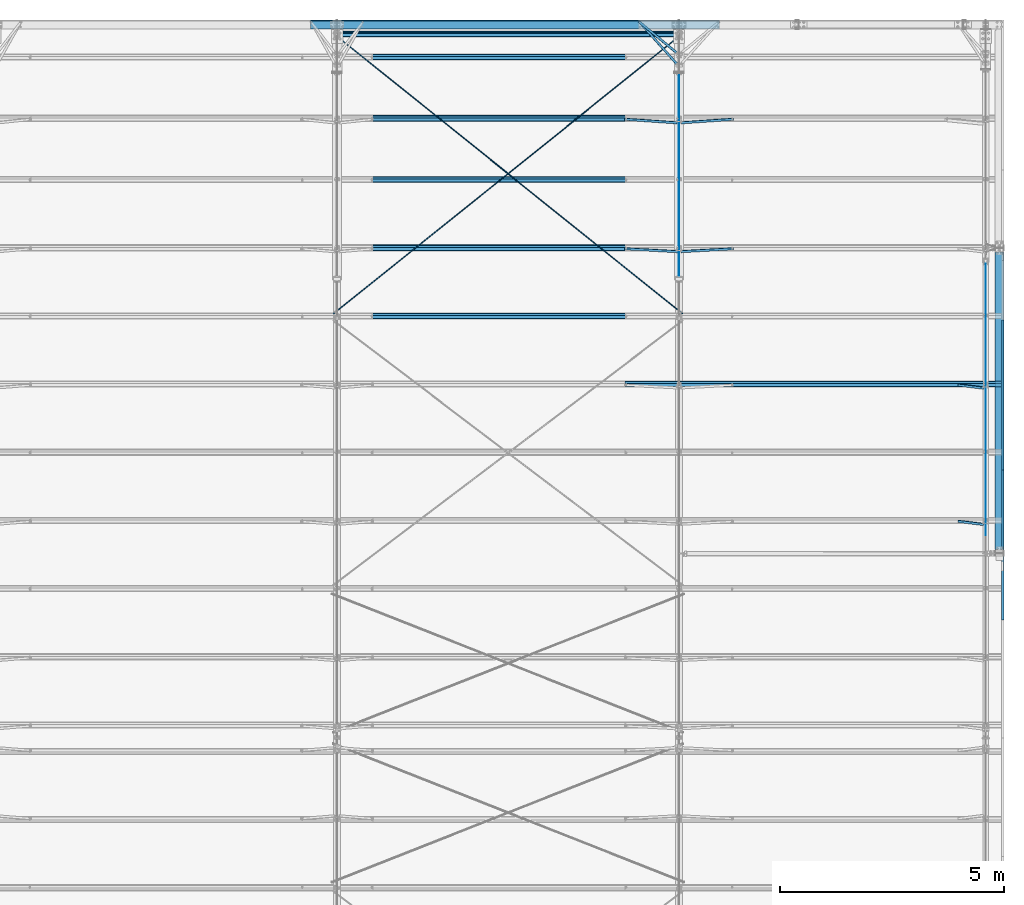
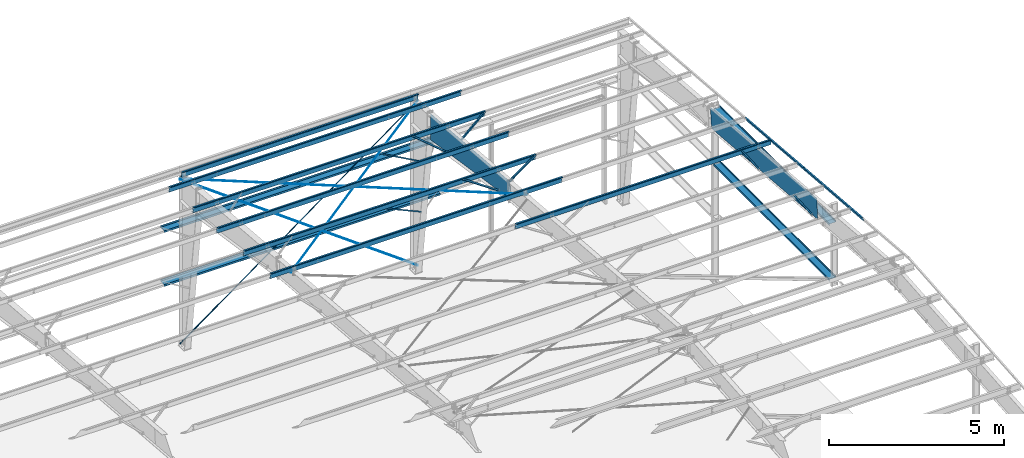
# One storey, part 20 of 185: 19 beams, 8 members, 27 elements without a shape of their own.
"""IFC2X3 building model written with IfcOpenShell, lengths in millimetres."""

from ifc_helpers import new_model, si_unit, frame, origin_with_axes, origin_2d_with_axis, place, context, subcontext, project, spatial, polyline, rectangle, circle, outline, extrude, clip, halfspace, material, type_object, element, aggregate, save


model = new_model("IFC2X3")

# Units and contexts
model_context = context("Model", 3, precision=1e-05, world=origin_with_axes())
body_context = subcontext(model_context, "Body", "Model", "MODEL_VIEW")
ifc_project = project(units=[si_unit("LENGTHUNIT", "METRE", prefix="MILLI"), si_unit("AREAUNIT", "SQUARE_METRE"), si_unit("VOLUMEUNIT", "CUBIC_METRE"), si_unit("MASSUNIT", "GRAM", prefix="KILO"), si_unit("TIMEUNIT", "SECOND"), si_unit("PLANEANGLEUNIT", "RADIAN"), si_unit("SOLIDANGLEUNIT", "STERADIAN"), si_unit("THERMODYNAMICTEMPERATUREUNIT", "DEGREE_CELSIUS"), si_unit("LUMINOUSINTENSITYUNIT", "LUMEN")], contexts=[model_context])

# Site, building, storey
site_placement = place(None, origin_with_axes())
site = spatial("IfcSite", under=ifc_project, at=site_placement, Name="Undefined", CompositionType="ELEMENT")
building_placement = place(site_placement, origin_with_axes())
building = spatial("IfcBuilding", under=site, at=building_placement, Name="Undefined", CompositionType="ELEMENT")
storey_placement = place(building_placement, origin_with_axes())
storey = spatial("IfcBuildingStorey", under=building, at=storey_placement, Name="Undefined", CompositionType="ELEMENT", Elevation=0.0)

# Assembly, beam
assembly_1_placement = place(storey_placement, origin_with_axes())
assembly_1 = element("IfcElementAssembly", 1, at=assembly_1_placement, inside=storey, Name="Steel Assembly", AssemblyPlace="NOTDEFINED", PredefinedType="RIGID_FRAME")
ifc_material = material(Name="STEEL/55")
beam_type_1 = type_object("IfcBeamType", Name="8Z15", PredefinedType="NOTDEFINED")
beam_1_placement = place(assembly_1_placement, frame((37719.0, 31180.9195102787, 6062.63787351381), z_axis=(0.0, -0.0830454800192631, -0.996545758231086), x_axis=(-1.0, 0.0, 0.0)))
beam_1 = element("IfcBeam", 2, at=beam_1_placement, type_object=beam_type_1, material=ifc_material, Name="Purlin", ObjectType="8Z15", context=body_context, shape_type="Clipping", body=[
    clip(clip(extrude(outline(polyline([(-75.75, 87.0100021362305), (-63.5, 101.599998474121), (1.5900000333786, 101.599998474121), (1.5900000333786, -98.4199981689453), (62.0200004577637, -98.4199981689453), (73.3099975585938, -84.9700012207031), (75.7399978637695, -87.0100021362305), (63.5, -101.599998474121), (-1.5900000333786, -101.599998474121), (-1.5900000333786, 98.4199981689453), (-62.0200004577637, 98.4199981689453), (-73.3099975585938, 84.9700012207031), (-75.75, 87.0100021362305)])), frame((8420.1, 0.0, 0.0), z_axis=(-1.0, 0.0, 0.0), x_axis=(0.0, -1.0, 0.0)), (0.0, 0.0, 1.0), 9626.6), halfspace(frame((8420.1, 2.91402102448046e-09, -101.600000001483), z_axis=(-1.0, 0.0, 0.0), x_axis=(0.0, 0.0, 1.0)), True)), halfspace(frame((-1206.5, 2.91402102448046e-09, -101.600000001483), z_axis=(-1.0, 0.0, 0.0), x_axis=(0.0, 0.0, 1.0)), False)),
])
aggregate(assembly_1, [beam_1])

assembly_2_placement = place(storey_placement, origin_with_axes())
assembly_2 = element("IfcElementAssembly", 3, at=assembly_2_placement, inside=storey, Name="Steel Assembly", AssemblyPlace="NOTDEFINED", PredefinedType="RIGID_FRAME")
beam_2_placement = place(assembly_2_placement, frame((37719.0, 29814.0573482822, 6176.54305391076), z_axis=(0.0, -0.0830454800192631, -0.996545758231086), x_axis=(-1.0, 0.0, 0.0)))
beam_2 = element("IfcBeam", 4, at=beam_2_placement, type_object=beam_type_1, material=ifc_material, Name="Purlin", ObjectType="8Z15", context=body_context, shape_type="Clipping", body=[
    clip(clip(extrude(outline(polyline([(-75.75, 87.0100021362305), (-63.5, 101.599998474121), (1.5900000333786, 101.599998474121), (1.5900000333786, -98.4199981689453), (62.0200004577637, -98.4199981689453), (73.3099975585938, -84.9700012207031), (75.7399978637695, -87.0100021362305), (63.5, -101.599998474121), (-1.5900000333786, -101.599998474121), (-1.5900000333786, 98.4199981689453), (-62.0200004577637, 98.4199981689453), (-73.3099975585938, 84.9700012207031), (-75.75, 87.0100021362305)])), frame((8420.1, 0.0, 0.0), z_axis=(-1.0, 0.0, 0.0), x_axis=(0.0, -1.0, 0.0)), (0.0, 0.0, 1.0), 9626.6), halfspace(frame((8420.1, 2.91402102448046e-09, -101.600000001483), z_axis=(-1.0, 0.0, 0.0), x_axis=(0.0, 0.0, 1.0)), True)), halfspace(frame((-1206.5, 2.91402102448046e-09, -101.600000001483), z_axis=(-1.0, 0.0, 0.0), x_axis=(0.0, 0.0, 1.0)), False)),
])
aggregate(assembly_2, [beam_2])

assembly_3_placement = place(storey_placement, origin_with_axes())
assembly_3 = element("IfcElementAssembly", 5, at=assembly_3_placement, inside=storey, Name="Steel Assembly", AssemblyPlace="NOTDEFINED", PredefinedType="RIGID_FRAME")
beam_3_placement = place(assembly_3_placement, frame((37719.0, 28447.1951862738, 6290.4482343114), z_axis=(0.0, -0.0830454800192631, -0.996545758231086), x_axis=(-1.0, 0.0, 0.0)))
beam_3 = element("IfcBeam", 6, at=beam_3_placement, type_object=beam_type_1, material=ifc_material, Name="Purlin", ObjectType="8Z15", context=body_context, shape_type="Clipping", body=[
    clip(clip(extrude(outline(polyline([(-75.75, 87.0100021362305), (-63.5, 101.599998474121), (1.5900000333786, 101.599998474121), (1.5900000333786, -98.4199981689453), (62.0200004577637, -98.4199981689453), (73.3099975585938, -84.9700012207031), (75.7399978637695, -87.0100021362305), (63.5, -101.599998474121), (-1.5900000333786, -101.599998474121), (-1.5900000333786, 98.4199981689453), (-62.0200004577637, 98.4199981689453), (-73.3099975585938, 84.9700012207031), (-75.75, 87.0100021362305)])), frame((8420.1, 0.0, 0.0), z_axis=(-1.0, 0.0, 0.0), x_axis=(0.0, -1.0, 0.0)), (0.0, 0.0, 1.0), 9626.6), halfspace(frame((8420.1, 2.91402102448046e-09, -101.600000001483), z_axis=(-1.0, 0.0, 0.0), x_axis=(0.0, 0.0, 1.0)), True)), halfspace(frame((-1206.5, 2.91402102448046e-09, -101.600000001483), z_axis=(-1.0, 0.0, 0.0), x_axis=(0.0, 0.0, 1.0)), False)),
])
aggregate(assembly_3, [beam_3])

assembly_4_placement = place(storey_placement, origin_with_axes())
assembly_4 = element("IfcElementAssembly", 7, at=assembly_4_placement, inside=storey, Name="Steel Assembly", AssemblyPlace="NOTDEFINED", PredefinedType="RIGID_FRAME")
beam_4_placement = place(assembly_4_placement, frame((37719.0, 26928.4594507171, 6417.00954586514), z_axis=(0.0, -0.0830454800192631, -0.996545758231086), x_axis=(-1.0, 0.0, 0.0)))
beam_4 = element("IfcBeam", 8, at=beam_4_placement, type_object=beam_type_1, material=ifc_material, Name="Purlin", ObjectType="8Z15", context=body_context, shape_type="Clipping", body=[
    clip(clip(extrude(outline(polyline([(-75.75, 87.0100021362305), (-63.5, 101.599998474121), (1.5900000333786, 101.599998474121), (1.5900000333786, -98.4199981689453), (62.0200004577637, -98.4199981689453), (73.3099975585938, -84.9700012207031), (75.7399978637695, -87.0100021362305), (63.5, -101.599998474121), (-1.5900000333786, -101.599998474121), (-1.5900000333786, 98.4199981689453), (-62.0200004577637, 98.4199981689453), (-73.3099975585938, 84.9700012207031), (-75.75, 87.0100021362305)])), frame((8420.1, 0.0, 0.0), z_axis=(-1.0, 0.0, 0.0), x_axis=(0.0, -1.0, 0.0)), (0.0, 0.0, 1.0), 9626.6), halfspace(frame((8420.1, 2.91402102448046e-09, -101.600000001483), z_axis=(-1.0, 0.0, 0.0), x_axis=(0.0, 0.0, 1.0)), True)), halfspace(frame((-1206.5, 2.91402102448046e-09, -101.600000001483), z_axis=(-1.0, 0.0, 0.0), x_axis=(0.0, 0.0, 1.0)), False)),
])
aggregate(assembly_4, [beam_4])

assembly_5_placement = place(storey_placement, origin_with_axes())
assembly_5 = element("IfcElementAssembly", 9, at=assembly_5_placement, inside=storey, Name="Steel Assembly", AssemblyPlace="NOTDEFINED", PredefinedType="RIGID_FRAME")
beam_5_placement = place(assembly_5_placement, frame((37719.0, 25409.7237151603, 6543.57085741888), z_axis=(0.0, -0.0830454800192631, -0.996545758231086), x_axis=(-1.0, 0.0, 0.0)))
beam_5 = element("IfcBeam", 10, at=beam_5_placement, type_object=beam_type_1, material=ifc_material, Name="Purlin", ObjectType="8Z15", context=body_context, shape_type="Clipping", body=[
    clip(clip(extrude(outline(polyline([(-75.75, 87.0100021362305), (-63.5, 101.599998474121), (1.5900000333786, 101.599998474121), (1.5900000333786, -98.4199981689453), (62.0200004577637, -98.4199981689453), (73.3099975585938, -84.9700012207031), (75.7399978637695, -87.0100021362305), (63.5, -101.599998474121), (-1.5900000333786, -101.599998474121), (-1.5900000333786, 98.4199981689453), (-62.0200004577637, 98.4199981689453), (-73.3099975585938, 84.9700012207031), (-75.75, 87.0100021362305)])), frame((8420.1, 0.0, 0.0), z_axis=(-1.0, 0.0, 0.0), x_axis=(0.0, -1.0, 0.0)), (0.0, 0.0, 1.0), 9626.6), halfspace(frame((8420.1, 2.91402102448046e-09, -101.600000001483), z_axis=(-1.0, 0.0, 0.0), x_axis=(0.0, 0.0, 1.0)), True)), halfspace(frame((-1206.5, 2.91402102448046e-09, -101.600000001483), z_axis=(-1.0, 0.0, 0.0), x_axis=(0.0, 0.0, 1.0)), False)),
])
aggregate(assembly_5, [beam_5])

assembly_6_placement = place(storey_placement, origin_with_axes())
assembly_6 = element("IfcElementAssembly", 11, at=assembly_6_placement, inside=storey, Name="Steel Assembly", AssemblyPlace="NOTDEFINED", PredefinedType="RIGID_FRAME")
beam_6_placement = place(assembly_6_placement, frame((37719.0, 31902.4, 4165.6), z_axis=(0.0, -1.0, 0.0), x_axis=(-1.0, 0.0, 0.0)))
beam_6 = element("IfcBeam", 12, at=beam_6_placement, type_object=beam_type_1, material=ifc_material, Name="Girt", ObjectType="8Z15", context=body_context, shape_type="Clipping", body=[
    clip(clip(extrude(outline(polyline([(-75.75, 87.0100021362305), (-63.5, 101.599998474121), (1.5900000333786, 101.599998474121), (1.5900000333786, -98.4199981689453), (62.0200004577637, -98.4199981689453), (73.3099975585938, -84.9700012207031), (75.7399978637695, -87.0100021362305), (63.5, -101.599998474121), (-1.5900000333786, -101.599998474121), (-1.5900000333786, 98.4199981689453), (-62.0200004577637, 98.4199981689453), (-73.3099975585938, 84.9700012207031), (-75.75, 87.0100021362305)])), frame((8216.9, 0.0, 0.0), z_axis=(-1.0, 0.0, 0.0), x_axis=(0.0, -1.0, 0.0)), (0.0, 0.0, 1.0), 9118.6), halfspace(frame((8216.9, 0.0, -101.6), z_axis=(1.0, 0.0, 0.0), x_axis=(0.0, 1.0, 0.0)), False)), halfspace(frame((-901.7, 0.0, -101.599999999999), z_axis=(1.0, 0.0, 0.0), x_axis=(0.0, 1.0, 0.0)), True)),
])
aggregate(assembly_6, [beam_6])

assembly_7_placement = place(storey_placement, origin_with_axes())
assembly_7 = element("IfcElementAssembly", 13, at=assembly_7_placement, inside=storey, Name="Steel Assembly", AssemblyPlace="NOTDEFINED", PredefinedType="RIGID_FRAME")
beam_type_2 = type_object("IfcBeamType", Name="FB-", PredefinedType="NOTDEFINED")
beam_7_placement = place(assembly_7_placement, frame((37675.6103838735, 31233.634497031, 2286.00000000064), z_axis=(0.0, 0.0, 1.0), x_axis=(-0.771602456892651, 0.636105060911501, 0.0)))
beam_7 = element("IfcBeam", 14, at=beam_7_placement, type_object=beam_type_2, material=ifc_material, Name="2X2 FLANGE BRACE X 48", ObjectType="FB-", context=body_context, shape_type="SweptSolid", body=[
    extrude(outline(polyline([(1.5900000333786, 1.59000003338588), (50.7999992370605, 1.59000003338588), (50.7999992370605, 7.27595761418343e-12), (0.0, 0.0), (0.0, 50.7999992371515), (1.5900000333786, 50.7999992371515), (1.5900000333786, 1.59000003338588)])), frame((1125.79495665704, 0.0, -1.24988348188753e-13), z_axis=(-1.0, 0.0, 0.0), x_axis=(0.0, -1.0, 0.0)), (0.0, 0.0, 1.0), 1125.8),
])
aggregate(assembly_7, [beam_7])

assembly_8_placement = place(storey_placement, origin_with_axes())
assembly_8 = element("IfcElementAssembly", 15, at=assembly_8_placement, inside=storey, Name="Steel Assembly", AssemblyPlace="NOTDEFINED", PredefinedType="RIGID_FRAME")
beam_8_placement = place(assembly_8_placement, frame((37670.0850701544, 30985.5315740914, 4165.59999999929), z_axis=(0.0, 0.0, 1.0), x_axis=(-0.664898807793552, 0.746933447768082, 0.0)))
beam_8 = element("IfcBeam", 16, at=beam_8_placement, type_object=beam_type_2, material=ifc_material, Name="2X2 FLANGE BRACE X 60", ObjectType="FB-", context=body_context, shape_type="SweptSolid", body=[
    extrude(outline(polyline([(1.5900000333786, 1.59000003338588), (50.7999992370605, 1.59000003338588), (50.7999992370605, 7.27595761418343e-12), (0.0, 0.0), (0.0, 50.7999992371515), (1.5900000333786, 50.7999992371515), (1.5900000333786, 1.59000003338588)])), frame((1298.31126038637, 0.0, 0.0), z_axis=(-1.0, 0.0, 0.0), x_axis=(0.0, -1.0, 0.0)), (0.0, 0.0, 1.0), 1298.3),
])
aggregate(assembly_8, [beam_8])

assembly_9_placement = place(storey_placement, origin_with_axes())
assembly_9 = element("IfcElementAssembly", 17, at=assembly_9_placement, inside=storey, Name="Steel Assembly", AssemblyPlace="NOTDEFINED", PredefinedType="RIGID_FRAME")
beam_type_3 = type_object("IfcBeamType", Name="8Z16", PredefinedType="NOTDEFINED")
beam_9_placement = place(assembly_9_placement, frame((44856.4, 19202.400390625, 6096.0), z_axis=(-1.0, 0.0, 0.0), x_axis=(0.0, 1.0, 0.0)))
beam_9 = element("IfcBeam", 18, at=beam_9_placement, type_object=beam_type_3, material=ifc_material, Name="Girt", ObjectType="8Z16", context=body_context, shape_type="Clipping", body=[
    clip(clip(extrude(outline(polyline([(73.3099975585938, -84.9700012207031), (75.7399978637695, -87.0100021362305), (63.5, -101.599998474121), (-1.5900000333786, -101.599998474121), (-1.5900000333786, 98.4199981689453), (-62.0200004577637, 98.4199981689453), (-73.3099975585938, 84.9700012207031), (-75.75, 87.0100021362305), (-63.5, 101.599998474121), (1.5900000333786, 101.599998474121), (1.5900000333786, -98.4199981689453), (62.0200004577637, -98.4199981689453), (73.3099975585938, -84.9700012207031)])), frame((7721.598828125, 0.0, 0.0), z_axis=(-1.0, 0.0, 0.0), x_axis=(0.0, -1.0, 0.0)), (0.0, 0.0, 1.0), 7721.6), halfspace(frame((7632.69960937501, -74.5286799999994, -101.599999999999), z_axis=(1.0, 0.0, 0.0), x_axis=(0.0, 0.0, 1.0)), False)), halfspace(frame((1003.29960937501, 74.5286799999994, -101.599999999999), z_axis=(-1.0, 0.0, 0.0), x_axis=(0.0, 0.0, 1.0)), False)),
])
aggregate(assembly_9, [beam_9])

assembly_10_placement = place(storey_placement, origin_with_axes())
assembly_10 = element("IfcElementAssembly", 19, at=assembly_10_placement, inside=storey, Name="Steel Assembly", AssemblyPlace="NOTDEFINED", PredefinedType="RIGID_FRAME")
beam_10_placement = place(assembly_10_placement, frame((37719.0, 31902.4, 2286.0), z_axis=(0.0, -1.0, 0.0), x_axis=(-1.0, 0.0, 0.0)))
beam_10 = element("IfcBeam", 20, at=beam_10_placement, type_object=beam_type_3, material=ifc_material, Name="Girt", ObjectType="8Z16", context=body_context, shape_type="Clipping", body=[
    clip(clip(extrude(outline(polyline([(73.3099975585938, -84.9700012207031), (75.7399978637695, -87.0100021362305), (63.5, -101.599998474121), (-1.5900000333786, -101.599998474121), (-1.5900000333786, 98.4199981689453), (-62.0200004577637, 98.4199981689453), (-73.3099975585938, 84.9700012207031), (-75.75, 87.0100021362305), (-63.5, 101.599998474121), (1.5900000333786, 101.599998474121), (1.5900000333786, -98.4199981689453), (62.0200004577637, -98.4199981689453), (73.3099975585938, -84.9700012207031)])), frame((8216.9, 0.0, 0.0), z_axis=(-1.0, 0.0, 0.0), x_axis=(0.0, -1.0, 0.0)), (0.0, 0.0, 1.0), 9118.6), halfspace(frame((8216.9, 0.0, -101.6), z_axis=(1.0, 0.0, 0.0), x_axis=(0.0, 1.0, 0.0)), False)), halfspace(frame((-901.7, 0.0, -101.599999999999), z_axis=(1.0, 0.0, 0.0), x_axis=(0.0, 1.0, 0.0)), True)),
])
aggregate(assembly_10, [beam_10])

# Assembly, member
assembly_11_placement = place(storey_placement, origin_with_axes())
assembly_11 = element("IfcElementAssembly", 21, at=assembly_11_placement, inside=storey, Name="Steel Assembly", AssemblyPlace="NOTDEFINED", PredefinedType="RIGID_FRAME")
member_type_1 = type_object("IfcMemberType", Name="FB-", PredefinedType="NOTDEFINED")
member_1_placement = place(assembly_11_placement, frame((44498.3456661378, 20787.5752313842, 6131.95946565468), z_axis=(0.0, -0.996545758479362, 0.0830454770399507), x_axis=(-0.553483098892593, 0.0691652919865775, 0.82998350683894)))
member_1 = element("IfcMember", 22, at=member_1_placement, type_object=member_type_1, material=ifc_material, Name="2X2 FLANGE BRACE X 48", ObjectType="FB-", context=body_context, shape_type="SweptSolid", body=[
    extrude(outline(polyline([(1.5900000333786, 1.59000003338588), (50.7999992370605, 1.59000003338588), (50.7999992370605, 7.27595761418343e-12), (0.0, 0.0), (0.0, 50.7999992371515), (1.5900000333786, 50.7999992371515), (1.5900000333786, 1.59000003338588)])), frame((1022.90167929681, -5.11529800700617e-13, 1.83318501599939e-12), z_axis=(-1.0, 0.0, 0.0), x_axis=(0.0, -1.0, 0.0)), (0.0, 0.0, 1.0), 1022.9),
])
aggregate(assembly_11, [member_1])

assembly_12_placement = place(storey_placement, origin_with_axes())
assembly_12 = element("IfcElementAssembly", 23, at=assembly_12_placement, inside=storey, Name="Steel Assembly", AssemblyPlace="NOTDEFINED", PredefinedType="RIGID_FRAME")
member_2_placement = place(assembly_12_placement, frame((44498.3456661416, 23825.0467025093, 5878.83684303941), z_axis=(0.0, -0.996545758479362, 0.0830454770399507), x_axis=(-0.553483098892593, 0.0691652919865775, 0.82998350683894)))
member_2 = element("IfcMember", 24, at=member_2_placement, type_object=member_type_1, material=ifc_material, Name="2X2 FLANGE BRACE X 48", ObjectType="FB-", context=body_context, shape_type="SweptSolid", body=[
    extrude(outline(polyline([(1.5900000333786, 1.59000003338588), (50.7999992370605, 1.59000003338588), (50.7999992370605, 7.27595761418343e-12), (0.0, 0.0), (0.0, 50.7999992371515), (1.5900000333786, 50.7999992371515), (1.5900000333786, 1.59000003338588)])), frame((1022.90167929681, -5.11529800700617e-13, 1.83318501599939e-12), z_axis=(-1.0, 0.0, 0.0), x_axis=(0.0, -1.0, 0.0)), (0.0, 0.0, 1.0), 1022.9),
])
aggregate(assembly_12, [member_2])

assembly_13_placement = place(storey_placement, origin_with_axes())
assembly_13 = element("IfcElementAssembly", 25, at=assembly_13_placement, inside=storey, Name="Steel Assembly", AssemblyPlace="NOTDEFINED", PredefinedType="RIGID_FRAME")
member_3_placement = place(assembly_13_placement, frame((37758.7112148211, 26867.2467094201, 5682.45664960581), z_axis=(-0.552924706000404, 0.0691960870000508, 0.830353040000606), x_axis=(0.833231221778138, 0.0459178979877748, 0.551014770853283)))
member_3 = element("IfcMember", 26, at=member_3_placement, type_object=member_type_1, material=ifc_material, Name="2X2 FLANGE BRACE X 48", ObjectType="FB-", context=body_context, shape_type="SweptSolid", body=[
    extrude(outline(polyline([(1.5900000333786, 1.59000003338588), (50.7999992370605, 1.59000003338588), (50.7999992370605, 7.27595761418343e-12), (0.0, 0.0), (0.0, 50.7999992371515), (1.5900000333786, 50.7999992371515), (1.5900000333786, 1.59000003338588)])), frame((1412.08960292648, 3.63797880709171e-12, -9.09494701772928e-13), z_axis=(-1.0, 0.0, 0.0), x_axis=(0.0, -1.0, 0.0)), (0.0, 0.0, 1.0), 1412.1),
])
aggregate(assembly_13, [member_3])

assembly_14_placement = place(storey_placement, origin_with_axes())
assembly_14 = element("IfcElementAssembly", 27, at=assembly_14_placement, inside=storey, Name="Steel Assembly", AssemblyPlace="NOTDEFINED", PredefinedType="RIGID_FRAME")
member_4_placement = place(assembly_14_placement, frame((37679.2887851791, 26867.2467094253, 5682.45664960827), z_axis=(0.0, -0.996545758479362, 0.0830454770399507), x_axis=(-0.833231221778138, 0.0459178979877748, 0.551014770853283)))
member_4 = element("IfcMember", 28, at=member_4_placement, type_object=member_type_1, material=ifc_material, Name="2X2 FLANGE BRACE X 48", ObjectType="FB-", context=body_context, shape_type="SweptSolid", body=[
    extrude(outline(polyline([(1.5900000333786, 1.59000003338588), (50.7999992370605, 1.59000003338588), (50.7999992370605, 7.27595761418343e-12), (0.0, 0.0), (0.0, 50.7999992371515), (1.5900000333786, 50.7999992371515), (1.5900000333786, 1.59000003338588)])), frame((1412.08960292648, 3.63797880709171e-12, -9.09494701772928e-13), z_axis=(-1.0, 0.0, 0.0), x_axis=(0.0, -1.0, 0.0)), (0.0, 0.0, 1.0), 1412.1),
])
aggregate(assembly_14, [member_4])

assembly_15_placement = place(storey_placement, origin_with_axes())
assembly_15 = element("IfcElementAssembly", 29, at=assembly_15_placement, inside=storey, Name="Steel Assembly", AssemblyPlace="NOTDEFINED", PredefinedType="RIGID_FRAME")
member_5_placement = place(assembly_15_placement, frame((37762.5293349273, 29737.0297531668, 5252.21191213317), z_axis=(-0.639120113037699, 0.0638708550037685, 0.766450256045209), x_axis=(0.769106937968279, 0.0530760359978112, 0.636912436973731)))
member_5 = element("IfcMember", 30, at=member_5_placement, type_object=member_type_1, material=ifc_material, Name="2X2 FLANGE BRACE X 60", ObjectType="FB-", context=body_context, shape_type="SweptSolid", body=[
    extrude(outline(polyline([(1.5900000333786, 1.59000003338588), (50.7999992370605, 1.59000003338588), (50.7999992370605, 7.27595761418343e-12), (0.0, 0.0), (0.0, 50.7999992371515), (1.5900000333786, 50.7999992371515), (1.5900000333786, 1.59000003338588)])), frame((1525.58711176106, 0.0, -1.30624257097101e-12), z_axis=(-1.0, 0.0, 0.0), x_axis=(0.0, -1.0, 0.0)), (0.0, 0.0, 1.0), 1525.6),
])
aggregate(assembly_15, [member_5])

assembly_16_placement = place(storey_placement, origin_with_axes())
assembly_16 = element("IfcElementAssembly", 31, at=assembly_16_placement, inside=storey, Name="Steel Assembly", AssemblyPlace="NOTDEFINED", PredefinedType="RIGID_FRAME")
member_6_placement = place(assembly_16_placement, frame((37675.4706650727, 29737.0297531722, 5252.2119121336), z_axis=(0.0, -0.996545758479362, 0.0830454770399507), x_axis=(-0.769106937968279, 0.0530760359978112, 0.636912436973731)))
member_6 = element("IfcMember", 32, at=member_6_placement, type_object=member_type_1, material=ifc_material, Name="2X2 FLANGE BRACE X 60", ObjectType="FB-", context=body_context, shape_type="SweptSolid", body=[
    extrude(outline(polyline([(1.5900000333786, 1.59000003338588), (50.7999992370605, 1.59000003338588), (50.7999992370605, 7.27595761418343e-12), (0.0, 0.0), (0.0, 50.7999992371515), (1.5900000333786, 50.7999992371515), (1.5900000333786, 1.59000003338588)])), frame((1525.58711176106, 0.0, -1.30624257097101e-12), z_axis=(-1.0, 0.0, 0.0), x_axis=(0.0, -1.0, 0.0)), (0.0, 0.0, 1.0), 1525.6),
])
aggregate(assembly_16, [member_6])

# Assembly, beam
assembly_17_placement = place(storey_placement, origin_with_axes())
assembly_17 = element("IfcElementAssembly", 33, at=assembly_17_placement, inside=storey, Name="Steel Assembly", AssemblyPlace="NOTDEFINED", PredefinedType="RIGID_FRAME")
beam_type_4 = type_object("IfcBeamType", Name="RA-1", PredefinedType="NOTDEFINED")
beam_11_placement = place(assembly_17_placement, frame((44958.0, 18639.1200995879, 7209.67436225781), z_axis=(0.0, -0.0830701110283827, -0.996543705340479), x_axis=(0.0, 0.99654370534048, -0.0830701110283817)))
beam_11 = element("IfcBeam", 34, at=beam_11_placement, type_object=beam_type_4, material=ifc_material, Name="STANDARD RAKE ANGLE", ObjectType="RA-1", context=body_context, shape_type="SweptSolid", body=[
    extrude(outline(polyline([(0.0, 0.0), (50.7999992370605, 7.27595761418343e-12), (50.7999992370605, -1.51999998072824), (-1.51999998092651, -1.51999998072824), (-1.51999998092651, 127.000000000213), (0.0, 127.000000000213), (0.0, 0.0)])), frame((3352.80000002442, 0.0, -1.86551885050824e-12), z_axis=(-1.0, 0.0, 0.0), x_axis=(0.0, -1.0, 0.0)), (0.0, 0.0, 1.0), 3352.8),
])
aggregate(assembly_17, [beam_11])

assembly_18_placement = place(storey_placement, origin_with_axes())
assembly_18 = element("IfcElementAssembly", 35, at=assembly_18_placement, inside=storey, Name="Steel Assembly", AssemblyPlace="NOTDEFINED", PredefinedType="RIGID_FRAME")
beam_12_placement = place(assembly_18_placement, frame((44958.0, 21980.3318350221, 6931.15689566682), z_axis=(0.0, -0.0830701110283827, -0.996543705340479), x_axis=(0.0, 0.99654370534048, -0.0830701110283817)))
beam_12 = element("IfcBeam", 36, at=beam_12_placement, type_object=beam_type_4, material=ifc_material, Name="STANDARD RAKE ANGLE", ObjectType="RA-1", context=body_context, shape_type="SweptSolid", body=[
    extrude(outline(polyline([(0.0, 0.0), (50.7999992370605, 7.27595761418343e-12), (50.7999992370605, -1.51999998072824), (-1.51999998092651, -1.51999998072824), (-1.51999998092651, 127.000000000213), (0.0, 127.000000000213), (0.0, 0.0)])), frame((3352.80000002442, 0.0, -1.86551885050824e-12), z_axis=(-1.0, 0.0, 0.0), x_axis=(0.0, -1.0, 0.0)), (0.0, 0.0, 1.0), 3352.8),
])
aggregate(assembly_18, [beam_12])

# Assembly, member
assembly_19_placement = place(storey_placement, origin_with_axes())
assembly_19 = element("IfcElementAssembly", 37, at=assembly_19_placement, inside=storey, Name="Steel Assembly", AssemblyPlace="NOTDEFINED", PredefinedType="RIGID_FRAME")
member_type_2 = type_object("IfcMemberType", Name="RB1\"", PredefinedType="NOTDEFINED")
member_7_placement = place(assembly_19_placement, frame((37821.6553735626, 31742.126, 93.231222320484), z_axis=(0.590895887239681, 0.0, 0.806747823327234), x_axis=(-0.806747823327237, 0.0, 0.590895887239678)))
member_7 = element("IfcMember", 38, at=member_7_placement, type_object=member_type_2, material=ifc_material, Name="ROD BRACE - 1", ObjectType="RB1\"", context=body_context, shape_type="SweptSolid", body=[
    extrude(circle(Radius=12.7, at=origin_2d_with_axis()), frame((9702.50572014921, 3.63797880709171e-12, 0.0), z_axis=(-1.0, 0.0, 0.0), x_axis=(0.0, -1.0, 0.0)), (0.0, 0.0, 1.0), 9702.5),
])
aggregate(assembly_19, [member_7])

assembly_20_placement = place(storey_placement, origin_with_axes())
assembly_20 = element("IfcElementAssembly", 39, at=assembly_20_placement, inside=storey, Name="Steel Assembly", AssemblyPlace="NOTDEFINED", PredefinedType="RIGID_FRAME")
member_8_placement = place(assembly_20_placement, frame((29996.7414264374, 31742.126, 93.231222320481), z_axis=(-0.59089588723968, 0.0, 0.806747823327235), x_axis=(0.806747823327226, 0.0, 0.590895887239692)))
member_8 = element("IfcMember", 40, at=member_8_placement, type_object=member_type_2, material=ifc_material, Name="ROD BRACE - 1", ObjectType="RB1\"", context=body_context, shape_type="SweptSolid", body=[
    extrude(circle(Radius=12.7, at=origin_2d_with_axis()), frame((9702.50572014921, 3.63797880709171e-12, 0.0), z_axis=(-1.0, 0.0, 0.0), x_axis=(0.0, -1.0, 0.0)), (0.0, 0.0, 1.0), 9702.5),
])
aggregate(assembly_20, [member_8])

# Assembly, beam
assembly_21_placement = place(storey_placement, origin_with_axes())
assembly_21 = element("IfcElementAssembly", 41, at=assembly_21_placement, inside=storey, Name="Steel Assembly", AssemblyPlace="NOTDEFINED", PredefinedType="RIGID_FRAME")
beam_type_5 = type_object("IfcBeamType", Name="RB3/4\"", PredefinedType="NOTDEFINED")
beam_13_placement = place(assembly_21_placement, frame((37798.1377763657, 31700.3820935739, 5858.44331980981), z_axis=(0.0803377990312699, -0.0170762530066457, 0.996621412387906), x_axis=(-0.778915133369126, -0.624963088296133, 0.0520802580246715)))
beam_13 = element("IfcBeam", 42, at=beam_13_placement, type_object=beam_type_5, material=ifc_material, Name="ROD BRACE - 3/4", ObjectType="RB3/4\"", context=body_context, shape_type="SweptSolid", body=[
    extrude(circle(Radius=9.525, at=origin_2d_with_axis()), frame((9982.86227122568, -1.95752944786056e-12, 6.92700221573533e-14), z_axis=(-1.0, 0.0, 0.0), x_axis=(0.0, -1.0, 0.0)), (0.0, 0.0, 1.0), 9982.9),
])
aggregate(assembly_21, [beam_13])

assembly_22_placement = place(storey_placement, origin_with_axes())
assembly_22 = element("IfcElementAssembly", 43, at=assembly_22_placement, inside=storey, Name="Steel Assembly", AssemblyPlace="NOTDEFINED", PredefinedType="RIGID_FRAME")
beam_14_placement = place(assembly_22_placement, frame((30019.8622236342, 31700.3820935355, 5858.44331982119), z_axis=(-0.0797532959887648, -0.0163428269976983, 0.996680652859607), x_axis=(0.778915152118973, -0.624963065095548, 0.0520802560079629)))
beam_14 = element("IfcBeam", 44, at=beam_14_placement, type_object=beam_type_5, material=ifc_material, Name="ROD BRACE - 3/4", ObjectType="RB3/4\"", context=body_context, shape_type="SweptSolid", body=[
    extrude(circle(Radius=9.525, at=origin_2d_with_axis()), frame((9982.86227122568, -1.95752944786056e-12, 6.92700221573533e-14), z_axis=(-1.0, 0.0, 0.0), x_axis=(0.0, -1.0, 0.0)), (0.0, 0.0, 1.0), 9982.9),
])
aggregate(assembly_22, [beam_14])

assembly_23_placement = place(storey_placement, origin_with_axes())
assembly_23 = element("IfcElementAssembly", 45, at=assembly_23_placement, inside=storey, Name="Steel Assembly", AssemblyPlace="NOTDEFINED", PredefinedType="RIGID_FRAME")
beam_type_6 = type_object("IfcBeamType", Name="8Z12", PredefinedType="NOTDEFINED")
beam_15_placement = place(assembly_23_placement, frame((37719.0, 31691.9108046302, 6020.05526556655), z_axis=(0.0, -0.0830454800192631, -0.996545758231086), x_axis=(-1.0, 0.0, 0.0)))
beam_15 = element("IfcBeam", 46, at=beam_15_placement, type_object=beam_type_6, material=ifc_material, Name="Purlin", ObjectType="8Z12", context=body_context, shape_type="Clipping", body=[
    clip(clip(extrude(outline(polyline([(-62.0200004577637, 98.4199981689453), (-73.3099975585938, 84.9700012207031), (-75.75, 87.0100021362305), (-63.5, 101.599998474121), (1.5900000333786, 101.599998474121), (1.5900000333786, -98.4199981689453), (62.0200004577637, -98.4199981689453), (73.3099975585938, -84.9700012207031), (75.7399978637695, -87.0100021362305), (63.5, -101.599998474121), (-1.5900000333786, -101.599998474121), (-1.5900000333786, 98.4199981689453), (-62.0200004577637, 98.4199981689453)])), frame((7708.9, 0.0, 0.0), z_axis=(-1.0, 0.0, 0.0), x_axis=(0.0, -1.0, 0.0)), (0.0, 0.0, 1.0), 7797.8), halfspace(frame((7708.9, 8.84028850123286e-10, -101.600000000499), z_axis=(-1.0, 0.0, 0.0), x_axis=(0.0, 0.0, -1.0)), True)), halfspace(frame((-88.8999999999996, 8.84028850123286e-10, -101.600000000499), z_axis=(-1.0, 0.0, 0.0), x_axis=(0.0, 0.0, 1.0)), False)),
])
aggregate(assembly_23, [beam_15])

assembly_24_placement = place(storey_placement, origin_with_axes())
assembly_24 = element("IfcElementAssembly", 47, at=assembly_24_placement, inside=storey, Name="Steel Assembly", AssemblyPlace="NOTDEFINED", PredefinedType="RIGID_FRAME")
beam_type_7 = type_object("IfcBeamType", Name="8Z13", PredefinedType="NOTDEFINED")
beam_16_placement = place(assembly_24_placement, frame((44958.0, 23890.9879796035, 6670.13216897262), z_axis=(0.0, -0.0830454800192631, -0.996545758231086), x_axis=(-1.0, 0.0, 0.0)))
beam_16 = element("IfcBeam", 48, at=beam_16_placement, type_object=beam_type_7, material=ifc_material, Name="Purlin", ObjectType="8Z13", context=body_context, shape_type="Clipping", body=[
    clip(clip(extrude(outline(polyline([(-62.0200004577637, 98.4199981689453), (-73.3099975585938, 84.9700012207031), (-75.75, 87.0100021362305), (-63.5, 101.599998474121), (1.5900000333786, 101.599998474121), (1.5900000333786, -98.4199981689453), (62.0200004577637, -98.4199981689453), (73.3099975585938, -84.9700012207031), (75.7399978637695, -87.0100021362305), (63.5, -101.599998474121), (-1.5900000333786, -101.599998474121), (-1.5900000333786, 98.4199981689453), (-62.0200004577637, 98.4199981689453)])), frame((8445.5, 0.0, 0.0), z_axis=(-1.0, 0.0, 0.0), x_axis=(0.0, -1.0, 0.0)), (0.0, 0.0, 1.0), 8432.8), halfspace(frame((8445.5, 2.91402102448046e-09, -101.600000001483), z_axis=(-1.0, 0.0, 0.0), x_axis=(0.0, 0.0, 1.0)), True)), halfspace(frame((12.7000000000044, 2.91402102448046e-09, -101.600000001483), z_axis=(-1.0, 0.0, 0.0), x_axis=(0.0, 0.0, 1.0)), False)),
])
aggregate(assembly_24, [beam_16])

assembly_25_placement = place(storey_placement, origin_with_axes())
assembly_25 = element("IfcElementAssembly", 49, at=assembly_25_placement, inside=storey, Name="Steel Assembly", AssemblyPlace="NOTDEFINED", PredefinedType="RIGID_FRAME")
beam_17_placement = place(assembly_25_placement, frame((44856.4, 19202.400390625, 4165.6), z_axis=(-1.0, 0.0, 0.0), x_axis=(0.0, 1.0, 0.0)))
beam_17 = element("IfcBeam", 50, at=beam_17_placement, type_object=beam_type_7, material=ifc_material, Name="Girt", ObjectType="8Z13", context=body_context, shape_type="Clipping", body=[
    clip(clip(extrude(outline(polyline([(-62.0200004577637, 98.4199981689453), (-73.3099975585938, 84.9700012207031), (-75.75, 87.0100021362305), (-63.5, 101.599998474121), (1.5900000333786, 101.599998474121), (1.5900000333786, -98.4199981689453), (62.0200004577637, -98.4199981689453), (73.3099975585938, -84.9700012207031), (75.7399978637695, -87.0100021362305), (63.5, -101.599998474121), (-1.5900000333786, -101.599998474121), (-1.5900000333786, 98.4199981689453), (-62.0200004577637, 98.4199981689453)])), frame((7721.598828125, 0.0, 0.0), z_axis=(-1.0, 0.0, 0.0), x_axis=(0.0, -1.0, 0.0)), (0.0, 0.0, 1.0), 7721.6), halfspace(frame((7632.69960937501, -74.5286799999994, -101.599999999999), z_axis=(1.0, 0.0, 0.0), x_axis=(0.0, 0.0, 1.0)), False)), halfspace(frame((1003.29960937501, 74.5286799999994, -101.599999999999), z_axis=(-1.0, 0.0, 0.0), x_axis=(0.0, 0.0, 1.0)), False)),
])
aggregate(assembly_25, [beam_17])

assembly_26_placement = place(storey_placement, origin_with_axes())
assembly_26 = element("IfcElementAssembly", 51, at=assembly_26_placement, inside=storey, Name="Steel Assembly", AssemblyPlace="NOTDEFINED", PredefinedType="RIGID_FRAME")
beam_type_8 = type_object("IfcBeamType", Name="PL1/8\"X28\"", PredefinedType="NOTDEFINED")
beam_18_placement = place(assembly_26_placement, frame((44551.6, 26630.9769289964, 5976.64299177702), z_axis=(0.0, 0.0830454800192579, 0.996545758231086), x_axis=(0.0, -0.996545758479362, 0.0830454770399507)))
beam_18 = element("IfcBeam", 52, at=beam_18_placement, type_object=beam_type_8, material=ifc_material, Name="Web", ObjectType="PL1/8\"X28\"", context=body_context, shape_type="Clipping", body=[
    clip(extrude(rectangle(XDim=3.4163, YDim=711.19999999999, at=origin_2d_with_axis()), frame((6095.99999991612, 0.0, -8.45989944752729e-14), z_axis=(-1.0, 0.0, 0.0), x_axis=(0.0, -1.0, 0.0)), (0.0, 0.0, 1.0), 6096.0), halfspace(frame((3.82096914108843e-08, 0.0, 355.599999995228), z_axis=(-1.0, 0.0, 0.0), x_axis=(0.0, -1.0, 0.0)), False)),
])
aggregate(assembly_26, [beam_18])

assembly_27_placement = place(storey_placement, origin_with_axes())
assembly_27 = element("IfcElementAssembly", 53, at=assembly_27_placement, inside=storey, Name="Steel Assembly", AssemblyPlace="NOTDEFINED", PredefinedType="RIGID_FRAME")
beam_type_9 = type_object("IfcBeamType", Name="PL3/16\"X36\"", PredefinedType="NOTDEFINED")
beam_19_placement = place(assembly_27_placement, frame((37719.0, 30859.3851615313, 5520.71772750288), z_axis=(0.0, 0.0830454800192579, 0.996545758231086), x_axis=(0.0, -0.996545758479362, 0.0830454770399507)))
beam_19 = element("IfcBeam", 54, at=beam_19_placement, type_object=beam_type_9, material=ifc_material, Name="Web", ObjectType="PL3/16\"X36\"", context=body_context, shape_type="Clipping", body=[
    clip(clip(clip(extrude(rectangle(XDim=4.762, YDim=914.4, at=origin_2d_with_axis()), frame((4635.45841786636, 0.0, 0.0), z_axis=(-1.0, 0.0, 0.0), x_axis=(0.0, -1.0, 0.0)), (0.0, 0.0, 1.0), 4686.9), halfspace(frame((-0.0865308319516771, 2.38124999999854, -457.199999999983), z_axis=(0.0654332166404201, 0.0, -0.99785695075), x_axis=(0.0, -1.0, 0.0)), False)), halfspace(frame((4635.45841788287, 0.0, 457.199999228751), z_axis=(-1.0, 0.0, 0.0), x_axis=(0.0, -1.0, 0.0)), True)), halfspace(frame((76.004485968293, 0.0, 455.892199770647), z_axis=(-0.996545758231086, 0.0, 0.0830454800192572), x_axis=(0.0, -1.0, 0.0)), False)),
])
aggregate(assembly_27, [beam_19])

save(model, "model.ifc")
